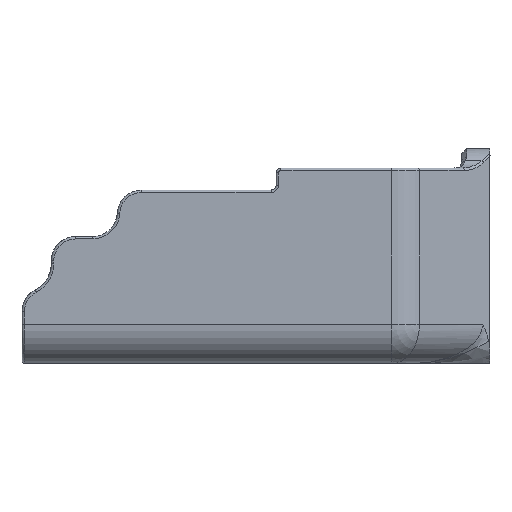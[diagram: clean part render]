
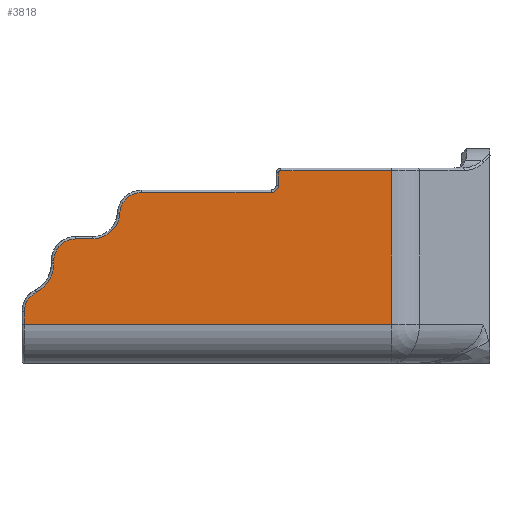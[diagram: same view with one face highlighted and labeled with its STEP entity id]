
A CAD part, left-side view. The second image highlights one B-rep face of the part: STEP entity #3818.
In plain terms, the highlighted planar face has unit normal (-1, 0, 0).
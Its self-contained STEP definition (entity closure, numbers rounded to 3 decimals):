
#2335=AXIS2_PLACEMENT_3D('Circle Axis2P3D',#2333,#2334,$) ;
#2366=AXIS2_PLACEMENT_3D('Circle Axis2P3D',#2364,#2365,$) ;
#2428=AXIS2_PLACEMENT_3D('Circle Axis2P3D',#2426,#2427,$) ;
#2490=AXIS2_PLACEMENT_3D('Circle Axis2P3D',#2488,#2489,$) ;
#2521=AXIS2_PLACEMENT_3D('Circle Axis2P3D',#2519,#2520,$) ;
#2583=AXIS2_PLACEMENT_3D('Circle Axis2P3D',#2581,#2582,$) ;
#2645=AXIS2_PLACEMENT_3D('Circle Axis2P3D',#2643,#2644,$) ;
#3794=AXIS2_PLACEMENT_3D('Plane Axis2P3D',#3791,#3792,#3793) ;
#2261=CARTESIAN_POINT('Vertex',(0.,89.3,8.)) ;
#2292=CARTESIAN_POINT('Vertex',(0.,89.3,10.602)) ;
#2302=CARTESIAN_POINT('Line Origine',(0.,89.3,22.14)) ;
#2323=CARTESIAN_POINT('Vertex',(0.,86.845,14.61)) ;
#2333=CARTESIAN_POINT('Axis2P3D Location',(0.,84.8,10.602)) ;
#2354=CARTESIAN_POINT('Vertex',(0.,83.3,20.4)) ;
#2364=CARTESIAN_POINT('Axis2P3D Location',(0.,89.8,20.4)) ;
#2385=CARTESIAN_POINT('Vertex',(0.,83.3,21.)) ;
#2395=CARTESIAN_POINT('Line Origine',(0.,83.3,24.)) ;
#2416=CARTESIAN_POINT('Vertex',(0.,78.8,25.5)) ;
#2426=CARTESIAN_POINT('Axis2P3D Location',(0.,78.8,21.)) ;
#2447=CARTESIAN_POINT('Vertex',(0.,75.3,25.5)) ;
#2457=CARTESIAN_POINT('Line Origine',(0.,51.957,25.5)) ;
#2478=CARTESIAN_POINT('Vertex',(0.,69.807,30.725)) ;
#2488=CARTESIAN_POINT('Axis2P3D Location',(0.,75.3,31.)) ;
#2509=CARTESIAN_POINT('Vertex',(0.,65.312,35.)) ;
#2519=CARTESIAN_POINT('Axis2P3D Location',(0.,65.312,30.5)) ;
#2540=CARTESIAN_POINT('Vertex',(0.,38.8,35.)) ;
#2550=CARTESIAN_POINT('Line Origine',(0.,51.957,35.)) ;
#2571=CARTESIAN_POINT('Vertex',(0.,37.3,36.5)) ;
#2581=CARTESIAN_POINT('Axis2P3D Location',(0.,38.8,36.5)) ;
#2602=CARTESIAN_POINT('Vertex',(0.,37.3,39.)) ;
#2612=CARTESIAN_POINT('Line Origine',(0.,37.3,24.)) ;
#2633=CARTESIAN_POINT('Vertex',(0.,36.8,39.5)) ;
#2643=CARTESIAN_POINT('Axis2P3D Location',(0.,36.8,39.)) ;
#2664=CARTESIAN_POINT('Vertex',(0.,14.114,39.5)) ;
#2674=CARTESIAN_POINT('Line Origine',(0.,48.128,39.5)) ;
#3142=CARTESIAN_POINT('Line Origine',(0.,14.114,21.93)) ;
#3146=CARTESIAN_POINT('Vertex',(0.,14.114,8.)) ;
#3791=CARTESIAN_POINT('Axis2P3D Location',(0.,89.8,0.)) ;
#3796=CARTESIAN_POINT('Line Origine',(0.,51.707,8.)) ;
#2303=DIRECTION('Vector Direction',(0.,0.,1.)) ;
#2334=DIRECTION('Axis2P3D Direction',(-1.,-0.,0.)) ;
#2365=DIRECTION('Axis2P3D Direction',(-1.,0.,0.)) ;
#2396=DIRECTION('Vector Direction',(0.,0.,-1.)) ;
#2427=DIRECTION('Axis2P3D Direction',(-1.,-0.,0.)) ;
#2458=DIRECTION('Vector Direction',(0.,1.,0.)) ;
#2489=DIRECTION('Axis2P3D Direction',(-1.,0.,0.)) ;
#2520=DIRECTION('Axis2P3D Direction',(-1.,-0.,0.)) ;
#2551=DIRECTION('Vector Direction',(0.,-1.,0.)) ;
#2582=DIRECTION('Axis2P3D Direction',(-1.,0.,0.)) ;
#2613=DIRECTION('Vector Direction',(0.,0.,1.)) ;
#2644=DIRECTION('Axis2P3D Direction',(-1.,-0.,0.)) ;
#2675=DIRECTION('Vector Direction',(0.,-1.,0.)) ;
#3143=DIRECTION('Vector Direction',(0.,0.,1.)) ;
#3792=DIRECTION('Axis2P3D Direction',(-1.,0.,0.)) ;
#3793=DIRECTION('Axis2P3D XDirection',(0.,-1.,0.)) ;
#3797=DIRECTION('Vector Direction',(0.,-1.,0.)) ;
#2304=VECTOR('Line Direction',#2303,1.) ;
#2397=VECTOR('Line Direction',#2396,1.) ;
#2459=VECTOR('Line Direction',#2458,1.) ;
#2552=VECTOR('Line Direction',#2551,1.) ;
#2614=VECTOR('Line Direction',#2613,1.) ;
#2676=VECTOR('Line Direction',#2675,1.) ;
#3144=VECTOR('Line Direction',#3143,1.) ;
#3798=VECTOR('Line Direction',#3797,1.) ;
#3802=ORIENTED_EDGE('',*,*,#3800,.F.) ;
#3803=ORIENTED_EDGE('',*,*,#3148,.T.) ;
#3804=ORIENTED_EDGE('',*,*,#2678,.T.) ;
#3805=ORIENTED_EDGE('',*,*,#2647,.T.) ;
#3806=ORIENTED_EDGE('',*,*,#2616,.T.) ;
#3807=ORIENTED_EDGE('',*,*,#2585,.T.) ;
#3808=ORIENTED_EDGE('',*,*,#2554,.T.) ;
#3809=ORIENTED_EDGE('',*,*,#2523,.T.) ;
#3810=ORIENTED_EDGE('',*,*,#2492,.T.) ;
#3811=ORIENTED_EDGE('',*,*,#2461,.T.) ;
#3812=ORIENTED_EDGE('',*,*,#2430,.T.) ;
#3813=ORIENTED_EDGE('',*,*,#2399,.T.) ;
#3814=ORIENTED_EDGE('',*,*,#2368,.T.) ;
#3815=ORIENTED_EDGE('',*,*,#2337,.T.) ;
#3816=ORIENTED_EDGE('',*,*,#2306,.T.) ;
#3818=ADVANCED_FACE('VOLCANO_Doppia_5015_Ventola_Inserti',(#3817),#3795,.T.) ;
#2336=CIRCLE('generated circle',#2335,4.5) ;
#2367=CIRCLE('generated circle',#2366,6.5) ;
#2429=CIRCLE('generated circle',#2428,4.5) ;
#2491=CIRCLE('generated circle',#2490,5.5) ;
#2522=CIRCLE('generated circle',#2521,4.5) ;
#2584=CIRCLE('generated circle',#2583,1.5) ;
#2646=CIRCLE('generated circle',#2645,0.5) ;
#2306=EDGE_CURVE('',#2293,#2262,#2305,.F.) ;
#2337=EDGE_CURVE('',#2324,#2293,#2336,.T.) ;
#2368=EDGE_CURVE('',#2355,#2324,#2367,.F.) ;
#2399=EDGE_CURVE('',#2386,#2355,#2398,.T.) ;
#2430=EDGE_CURVE('',#2417,#2386,#2429,.T.) ;
#2461=EDGE_CURVE('',#2448,#2417,#2460,.T.) ;
#2492=EDGE_CURVE('',#2479,#2448,#2491,.F.) ;
#2523=EDGE_CURVE('',#2510,#2479,#2522,.T.) ;
#2554=EDGE_CURVE('',#2541,#2510,#2553,.F.) ;
#2585=EDGE_CURVE('',#2572,#2541,#2584,.F.) ;
#2616=EDGE_CURVE('',#2603,#2572,#2615,.F.) ;
#2647=EDGE_CURVE('',#2634,#2603,#2646,.T.) ;
#2678=EDGE_CURVE('',#2665,#2634,#2677,.F.) ;
#3148=EDGE_CURVE('',#3147,#2665,#3145,.T.) ;
#3800=EDGE_CURVE('',#3147,#2262,#3799,.F.) ;
#3801=EDGE_LOOP('',(#3802,#3803,#3804,#3805,#3806,#3807,#3808,#3809,#3810,#3811,#3812,#3813,#3814,#3815,#3816)) ;
#3817=FACE_OUTER_BOUND('',#3801,.T.) ;
#2305=LINE('Line',#2302,#2304) ;
#2398=LINE('Line',#2395,#2397) ;
#2460=LINE('Line',#2457,#2459) ;
#2553=LINE('Line',#2550,#2552) ;
#2615=LINE('Line',#2612,#2614) ;
#2677=LINE('Line',#2674,#2676) ;
#3145=LINE('Line',#3142,#3144) ;
#3799=LINE('Line',#3796,#3798) ;
#3795=PLANE('',#3794) ;
#2262=VERTEX_POINT('',#2261) ;
#2293=VERTEX_POINT('',#2292) ;
#2324=VERTEX_POINT('',#2323) ;
#2355=VERTEX_POINT('',#2354) ;
#2386=VERTEX_POINT('',#2385) ;
#2417=VERTEX_POINT('',#2416) ;
#2448=VERTEX_POINT('',#2447) ;
#2479=VERTEX_POINT('',#2478) ;
#2510=VERTEX_POINT('',#2509) ;
#2541=VERTEX_POINT('',#2540) ;
#2572=VERTEX_POINT('',#2571) ;
#2603=VERTEX_POINT('',#2602) ;
#2634=VERTEX_POINT('',#2633) ;
#2665=VERTEX_POINT('',#2664) ;
#3147=VERTEX_POINT('',#3146) ;
